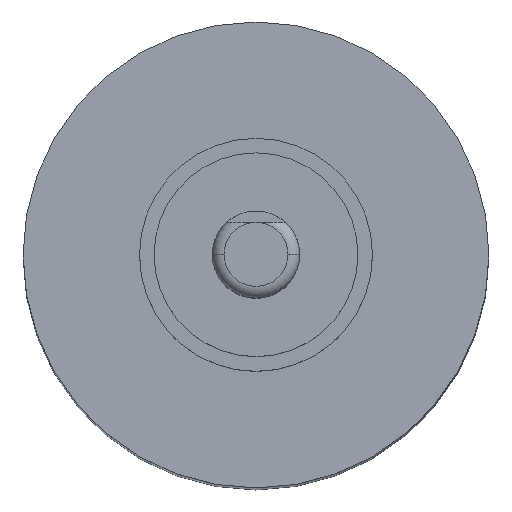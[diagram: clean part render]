
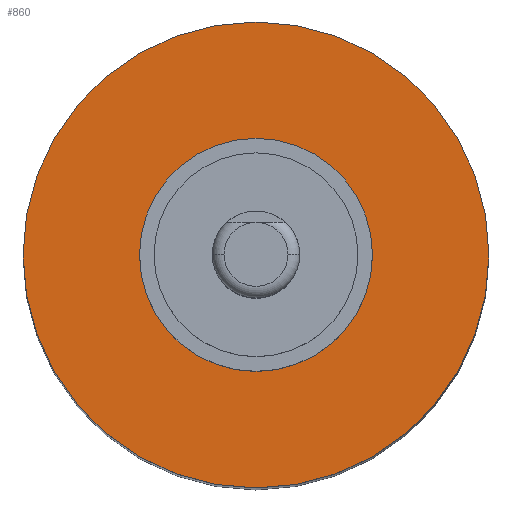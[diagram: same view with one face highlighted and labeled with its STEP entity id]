
A CAD part, top view. The second image highlights one B-rep face of the part: STEP entity #860.
In plain terms, the highlighted planar face has unit normal (0, 0, 1).
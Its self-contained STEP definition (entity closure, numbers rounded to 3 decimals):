
#35 = AXIS2_PLACEMENT_3D ( 'NONE', #564, #636, #786 ) ;
#168 = PLANE ( 'NONE',  #323 ) ;
#240 = EDGE_LOOP ( 'NONE', ( #637, #451 ) ) ;
#244 = CARTESIAN_POINT ( 'NONE',  ( 0., 0., -6. ) ) ;
#249 = DIRECTION ( 'NONE',  ( 0., 0., 1. ) ) ;
#262 = CARTESIAN_POINT ( 'NONE',  ( 0., -4., -6. ) ) ;
#284 = EDGE_CURVE ( 'NONE', #368, #872, #731, .T. ) ;
#323 = AXIS2_PLACEMENT_3D ( 'NONE', #244, #249, #561 ) ;
#336 = CARTESIAN_POINT ( 'NONE',  ( 0., 4., -6. ) ) ;
#368 = VERTEX_POINT ( 'NONE', #262 ) ;
#423 = DIRECTION ( 'NONE',  ( 0., 0., 1. ) ) ;
#451 = ORIENTED_EDGE ( 'NONE', *, *, #778, .T. ) ;
#561 = DIRECTION ( 'NONE',  ( 0., -1., 0. ) ) ;
#564 = CARTESIAN_POINT ( 'NONE',  ( 0., 0., -6. ) ) ;
#581 = FACE_OUTER_BOUND ( 'NONE', #240, .T. ) ;
#635 = DIRECTION ( 'NONE',  ( 0., -1., 0. ) ) ;
#636 = DIRECTION ( 'NONE',  ( 0., 0., 1. ) ) ;
#637 = ORIENTED_EDGE ( 'NONE', *, *, #284, .T. ) ;
#680 = AXIS2_PLACEMENT_3D ( 'NONE', #870, #423, #635 ) ;
#714 = CIRCLE ( 'NONE', #35, 4. ) ;
#731 = CIRCLE ( 'NONE', #680, 4. ) ;
#778 = EDGE_CURVE ( 'NONE', #872, #368, #714, .T. ) ;
#786 = DIRECTION ( 'NONE',  ( 0., -1., 0. ) ) ;
#860 = ADVANCED_FACE ( 'NONE', ( #581 ), #168, .T. ) ;
#870 = CARTESIAN_POINT ( 'NONE',  ( 0., 0., -6. ) ) ;
#872 = VERTEX_POINT ( 'NONE', #336 ) ;
